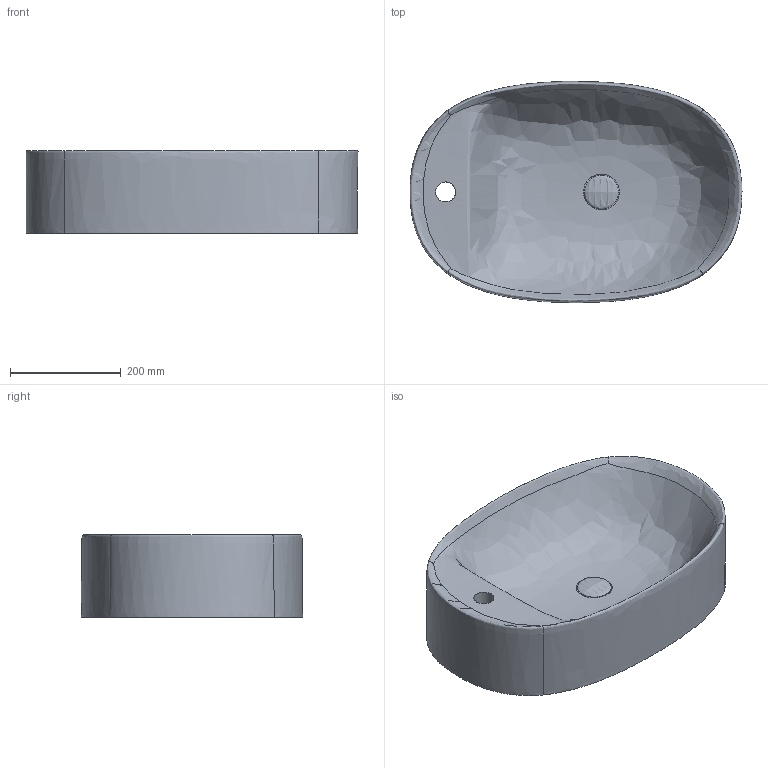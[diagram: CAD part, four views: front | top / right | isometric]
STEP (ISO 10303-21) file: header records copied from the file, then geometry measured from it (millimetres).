
FILE_DESCRIPTION(/* description */ (''),/* implementation_level */ '2;1');
FILE_NAME(/* name */ 'ART540~1',/* time_stamp */ '2024-09-09T16:10:25+02:00',/* author */ (''),/* organization */ (''),/* preprocessor_version */ 'ST-DEVELOPER v16.5',/* originating_system */ '',/* authorisation */ '');
FILE_SCHEMA (('CONFIG_CONTROL_DESIGN'));
Length unit declared in the file: millimetre
Products named in the file (1): Document
Bounding box: 600.63 x 399.97 x 150.02 mm (x, y, z)
Volume: 16239043.7 mm3; surface area: 736526 mm2
Topology: 2 solids, 2 shells, 15 faces, 36 edges, 22 vertices
Faces by surface type: bspline 8, cylinder 6, plane 1
Entity records: 3971 total; most frequent: CARTESIAN_POINT 3677, ORIENTED_EDGE 64, EDGE_CURVE 32, VERTEX_POINT 22, EDGE_LOOP 20, ADVANCED_FACE 15, FACE_OUTER_BOUND 15, DIRECTION 11
